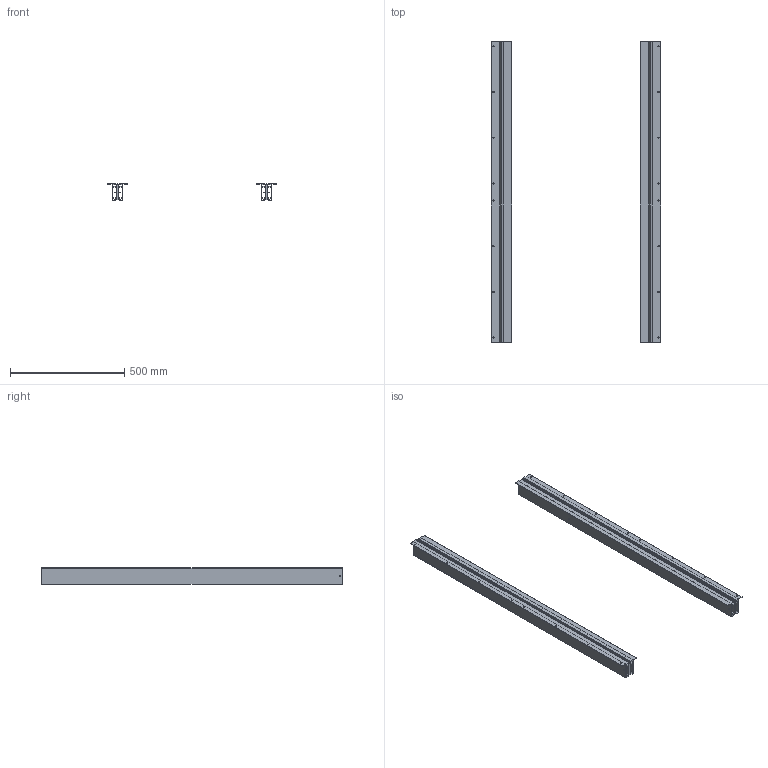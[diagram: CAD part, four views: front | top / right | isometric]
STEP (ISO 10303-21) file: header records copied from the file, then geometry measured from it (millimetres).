
FILE_DESCRIPTION( ( '' ), '1' );
FILE_NAME( 'D:/HETTCAD 2014/DATA TRANSFER/AUTOCAD EXPORT/SENT/Sheet m_6/9133042/9133048.stp', '2014-06-18T05:19:13', ( '' ), ( '' ), ' ', ' ', ' ' );
FILE_SCHEMA( ( 'CONFIG_CONTROL_DESIGN' ) );
Length unit declared in the file: millimetre
Products named in the file (2): 1; 2
Bounding box: 740.8 x 1315 x 73.7 mm (x, y, z)
Volume: 4106464.5 mm3; surface area: 1919226.5 mm2
Topology: 2 solids, 2 shells, 180 faces, 504 edges, 336 vertices
Faces by surface type: plane 92, cylinder 88
Entity records: 6084 total; most frequent: DIRECTION 1044, CARTESIAN_POINT 1022, ORIENTED_EDGE 1008, EDGE_CURVE 504, AXIS2_PLACEMENT_3D 358, VERTEX_POINT 336, LINE 328, VECTOR 328
